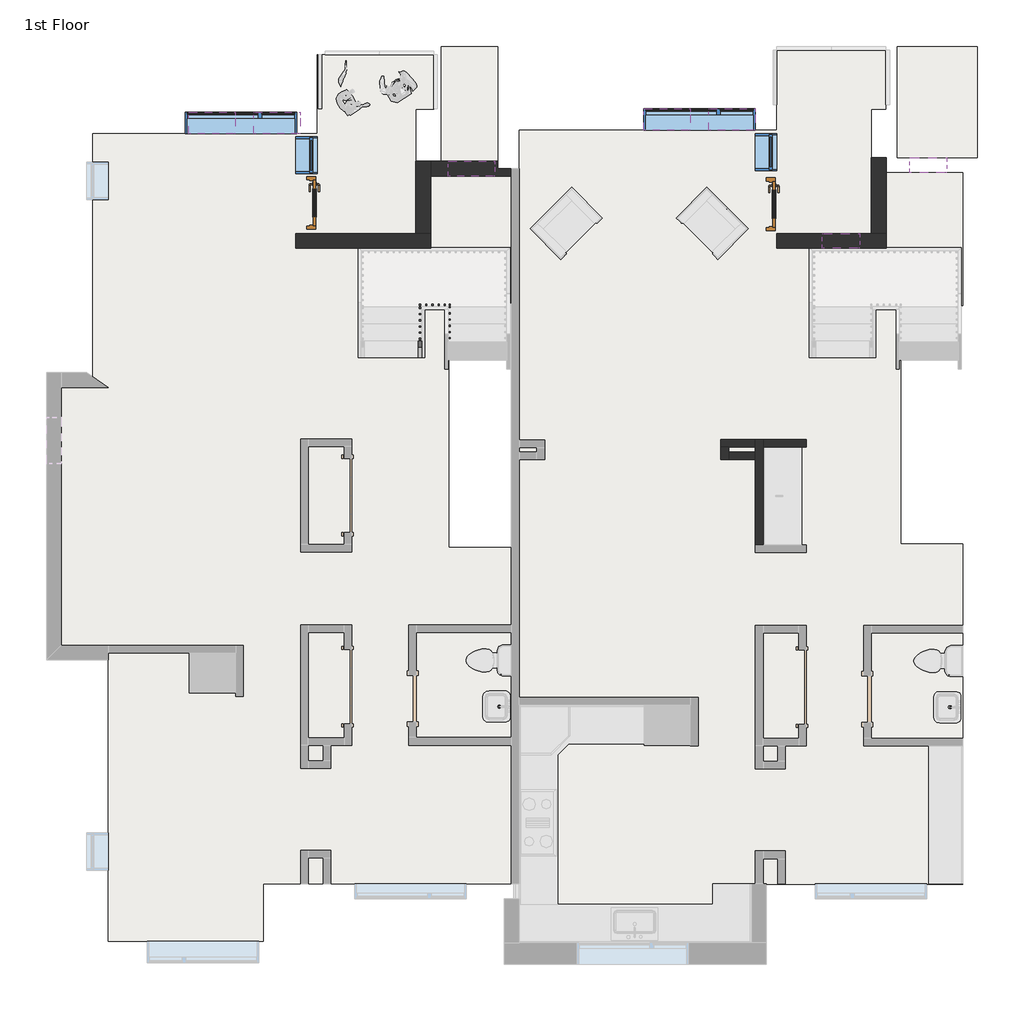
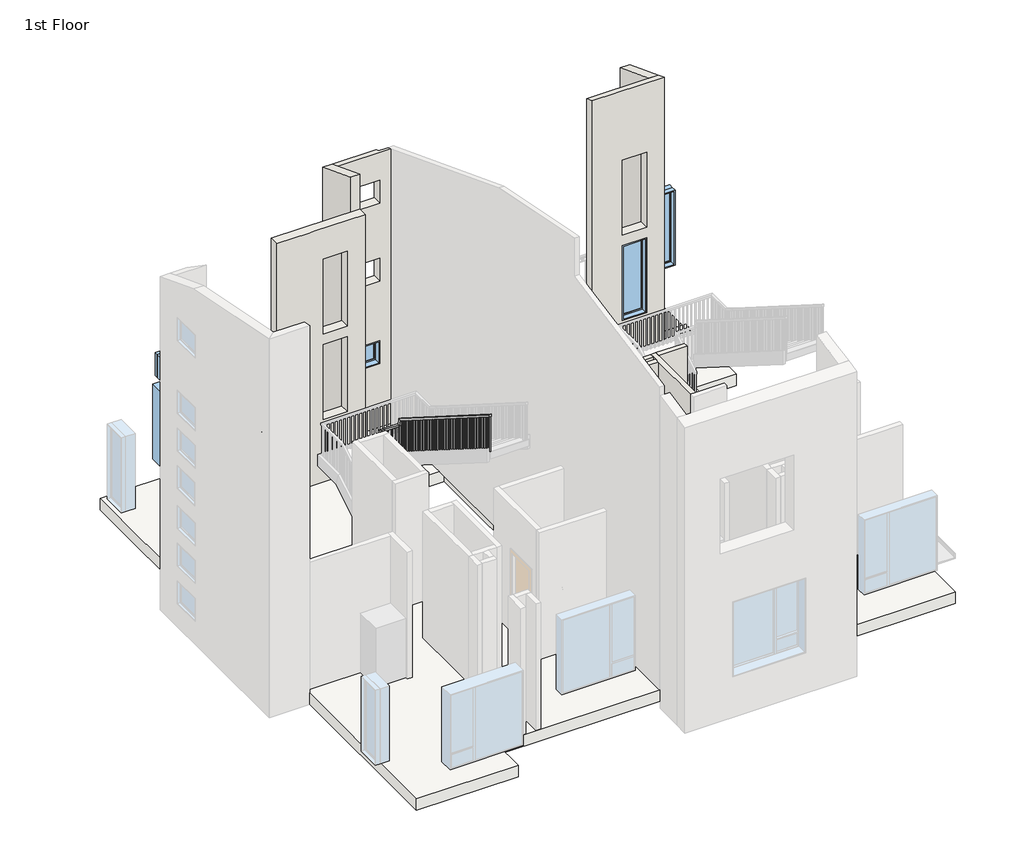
# One storey, part 2 of 6: 11 windows, 10 walls, 2 doors, 2 roofs, 1 railing, 1 slab.
"""IFC4 building model written with IfcOpenShell, lengths in millimetres."""

from ifc_helpers import new_model, si_unit, frame, origin, origin_with_axes, place, context, project, spatial, polyline, outline, extrude, faceted_brep, transform, mapped, element, save
from components import door_00adfaa7, window_8bf192ed, window_b6feeaa8, window_2f0d178e, window_b1c1038b, window_8c170f25, window_03925a3a, window_dcb26459

model = new_model("IFC4")

# Units and contexts
model_context = context("Model", 3, world=origin())
ifc_project = project(units=[si_unit("LENGTHUNIT", "METRE", prefix="MILLI")], contexts=[model_context])

# Site, building, storey
site = spatial("IfcSite", under=ifc_project)
building = spatial("IfcBuilding", under=site)
storey = spatial("IfcBuildingStorey", under=building, Name="1st Floor", Elevation=0.0)

# Doors
placement = place(None, origin())
door_shape = door_00adfaa7(model_context)
element("IfcDoor", 1, ObjectType="Door-Passage-Single-Full_Lite : 30\" x 84\"", at=placement, inside=storey, context=model_context, shape_type="MappedRepresentation", body=[
    mapped(door_shape, transform((2467.5053219, 5235.7563085, 0.0), x_axis=(0.0, -1.0, 0.0), y_axis=(1.0, 0.0, 0.0), z_axis=(0.0, 0.0, 1.0))),
])
element("IfcDoor", 2, ObjectType="Door-Passage-Single-Full_Lite : 30\" x 84\"", at=placement, inside=storey, context=model_context, shape_type="MappedRepresentation", body=[
    mapped(door_shape, transform((-5065.5821781, 5257.9813085, 0.0), x_axis=(0.0, -1.0, 0.0), y_axis=(1.0, 0.0, 0.0), z_axis=(0.0, 0.0, 1.0))),
])

# Railing
element("IfcRailing", 3, ObjectType="Handrail - Rectangular", at=placement, inside=storey, context=model_context, shape_type="SolidModel", body=[
    faceted_brep([(-3224.3663287, 2721.6563085, 1090.8631579), (-3224.3663287, 2721.6563085, 1030.7795781), (-3173.5663287, 2721.6563085, 1030.7795781), (-3173.5663287, 2721.6563085, 1090.8631579), (-3224.3663287, 3483.6563085, 1572.1263158), (-3224.3663287, 3534.4563085, 1544.1269465), (-3173.5663287, 3534.4563085, 1544.1269465), (-3173.5663287, 3483.6563085, 1572.1263158), (-3224.3663287, 3483.6563085, 1620.2526316), (-3224.3663287, 3534.4563085, 1569.4526316), (-3173.5663287, 3534.4563085, 1569.4526316), (-3173.5663287, 3483.6563085, 1620.2526316), (-3224.3663287, 3610.6563085, 1620.2526316), (-3224.3663287, 3610.6563085, 1569.4526316), (-3173.5663287, 3559.8563085, 1569.4526316), (-3173.5663287, 3559.8563085, 1620.2526316), (-3097.3663287, 3610.6563085, 1620.2526316), (-3097.3663287, 3610.6563085, 1569.4526316), (-3097.3663287, 3559.8563085, 1569.4526316), (-3097.3663287, 3559.8563085, 1620.2526316), (-2688.9571781, 3610.6563085, 1620.2526316), (-2688.9571781, 3559.8563085, 1620.2526316), (-2688.9571781, 3559.8563085, 1569.4526316), (-2688.9571781, 3610.6563085, 1569.4526316)], [[[0, 1, 2, 3]], [[1, 0, 4, 5]], [[2, 1, 5, 6]], [[3, 2, 6, 7]], [[0, 3, 7, 4]], [[5, 4, 8, 9]], [[6, 5, 9, 10]], [[7, 6, 10, 11]], [[4, 7, 11, 8]], [[9, 8, 12, 13]], [[10, 9, 13, 14]], [[11, 10, 14, 15]], [[8, 11, 15, 12]], [[13, 12, 16, 17]], [[14, 13, 17, 18]], [[15, 14, 18, 19]], [[12, 15, 19, 16]], [[20, 21, 22, 23]], [[17, 16, 20, 23]], [[18, 17, 23, 22]], [[19, 18, 22, 21]], [[16, 19, 21, 20]]]),
    faceted_brep([(-2688.9571781, 3585.2563085, 1620.2526316), (-2688.9571781, 3535.6297104, 1609.3971833), (-2739.7571781, 3535.6297104, 1609.3971833), (-2739.7571781, 3585.2563085, 1620.2526316), (-2688.9571781, 3546.6563085, 1796.7157895), (-2688.9571781, 3501.5690485, 1765.1083739), (-2739.7571781, 3501.5690485, 1765.1083739), (-2739.7571781, 3546.6563085, 1796.7157895), (-2688.9571781, -364.9436915, 4267.2), (-2739.7571781, -364.9436915, 4267.2), (-2739.7571781, -364.9436915, 4207.1164202), (-2688.9571781, -364.9436915, 4207.1164202)], [[[0, 1, 2, 3]], [[1, 0, 4, 5]], [[2, 1, 5, 6]], [[3, 2, 6, 7]], [[0, 3, 7, 4]], [[8, 9, 10, 11]], [[5, 4, 8, 11]], [[6, 5, 11, 10]], [[7, 6, 10, 9]], [[4, 7, 9, 8]]]),
    extrude(outline(polyline([(-323.6686915, 4181.0479991), (-304.6186915, 4169.0164202), (-304.6186915, 3176.3368421), (-323.6686915, 3176.3368421), (-323.6686915, 4181.0479991)])), frame((-2723.8821781, 0.0, 0.0), z_axis=(1.0, 0.0, 0.0), x_axis=(0.0, 1.0, 0.0)), (0.0, 0.0, 1.0), 19.05),
    extrude(outline(polyline([(-222.0686915, 4116.8795781), (-203.0186915, 4104.8479991), (-203.0186915, 3176.3368421), (-222.0686915, 3176.3368421), (-222.0686915, 4116.8795781)])), frame((-2723.8821781, 0.0, 0.0), z_axis=(1.0, 0.0, 0.0), x_axis=(0.0, 1.0, 0.0)), (0.0, 0.0, 1.0), 19.05),
    extrude(outline(polyline([(-120.4686915, 4052.711157), (-101.4186915, 4040.6795781), (-101.4186915, 3176.3368421), (-120.4686915, 3176.3368421), (-120.4686915, 4052.711157)])), frame((-2723.8821781, 0.0, 0.0), z_axis=(1.0, 0.0, 0.0), x_axis=(0.0, 1.0, 0.0)), (0.0, 0.0, 1.0), 19.05),
    extrude(outline(polyline([(-18.8686915, 3988.542736), (0.1813085, 3976.511157), (0.1813085, 2999.8736842), (-18.8686915, 2999.8736842), (-18.8686915, 3988.542736)])), frame((-2723.8821781, 0.0, 0.0), z_axis=(1.0, 0.0, 0.0), x_axis=(0.0, 1.0, 0.0)), (0.0, 0.0, 1.0), 19.05),
    extrude(outline(polyline([(82.7313085, 3924.3743149), (101.7813085, 3912.342736), (101.7813085, 2999.8736842), (82.7313085, 2999.8736842), (82.7313085, 3924.3743149)])), frame((-2723.8821781, 0.0, 0.0), z_axis=(1.0, 0.0, 0.0), x_axis=(0.0, 1.0, 0.0)), (0.0, 0.0, 1.0), 19.05),
    extrude(outline(polyline([(184.3313085, 3860.2058939), (203.3813085, 3848.1743149), (203.3813085, 2999.8736842), (184.3313085, 2999.8736842), (184.3313085, 3860.2058939)])), frame((-2723.8821781, 0.0, 0.0), z_axis=(1.0, 0.0, 0.0), x_axis=(0.0, 1.0, 0.0)), (0.0, 0.0, 1.0), 19.05),
    extrude(outline(polyline([(285.9313085, 3796.0374728), (304.9813085, 3784.0058939), (304.9813085, 2823.4105263), (285.9313085, 2823.4105263), (285.9313085, 3796.0374728)])), frame((-2723.8821781, 0.0, 0.0), z_axis=(1.0, 0.0, 0.0), x_axis=(0.0, 1.0, 0.0)), (0.0, 0.0, 1.0), 19.05),
    extrude(outline(polyline([(387.5313085, 3731.8690517), (406.5813085, 3719.8374728), (406.5813085, 2823.4105263), (387.5313085, 2823.4105263), (387.5313085, 3731.8690517)])), frame((-2723.8821781, 0.0, 0.0), z_axis=(1.0, 0.0, 0.0), x_axis=(0.0, 1.0, 0.0)), (0.0, 0.0, 1.0), 19.05),
    extrude(outline(polyline([(489.1313085, 3667.7006307), (508.1813085, 3655.6690517), (508.1813085, 2646.9473684), (489.1313085, 2646.9473684), (489.1313085, 3667.7006307)])), frame((-2723.8821781, 0.0, 0.0), z_axis=(1.0, 0.0, 0.0), x_axis=(0.0, 1.0, 0.0)), (0.0, 0.0, 1.0), 19.05),
    extrude(outline(polyline([(590.7313085, 3603.5322096), (609.7813085, 3591.5006307), (609.7813085, 2646.9473684), (590.7313085, 2646.9473684), (590.7313085, 3603.5322096)])), frame((-2723.8821781, 0.0, 0.0), z_axis=(1.0, 0.0, 0.0), x_axis=(0.0, 1.0, 0.0)), (0.0, 0.0, 1.0), 19.05),
    extrude(outline(polyline([(692.3313085, 3539.3637886), (711.3813085, 3527.3322096), (711.3813085, 2646.9473684), (692.3313085, 2646.9473684), (692.3313085, 3539.3637886)])), frame((-2723.8821781, 0.0, 0.0), z_axis=(1.0, 0.0, 0.0), x_axis=(0.0, 1.0, 0.0)), (0.0, 0.0, 1.0), 19.05),
    extrude(outline(polyline([(793.9313085, 3475.1953675), (812.9813085, 3463.1637886), (812.9813085, 2470.4842105), (793.9313085, 2470.4842105), (793.9313085, 3475.1953675)])), frame((-2723.8821781, 0.0, 0.0), z_axis=(1.0, 0.0, 0.0), x_axis=(0.0, 1.0, 0.0)), (0.0, 0.0, 1.0), 19.05),
    extrude(outline(polyline([(895.5313085, 3411.0269465), (914.5813085, 3398.9953675), (914.5813085, 2470.4842105), (895.5313085, 2470.4842105), (895.5313085, 3411.0269465)])), frame((-2723.8821781, 0.0, 0.0), z_axis=(1.0, 0.0, 0.0), x_axis=(0.0, 1.0, 0.0)), (0.0, 0.0, 1.0), 19.05),
    extrude(outline(polyline([(997.1313085, 3346.8585254), (1016.1813085, 3334.8269465), (1016.1813085, 2470.4842105), (997.1313085, 2470.4842105), (997.1313085, 3346.8585254)])), frame((-2723.8821781, 0.0, 0.0), z_axis=(1.0, 0.0, 0.0), x_axis=(0.0, 1.0, 0.0)), (0.0, 0.0, 1.0), 19.05),
    extrude(outline(polyline([(1098.7313085, 3282.6901044), (1117.7813085, 3270.6585254), (1117.7813085, 2294.0210526), (1098.7313085, 2294.0210526), (1098.7313085, 3282.6901044)])), frame((-2723.8821781, 0.0, 0.0), z_axis=(1.0, 0.0, 0.0), x_axis=(0.0, 1.0, 0.0)), (0.0, 0.0, 1.0), 19.05),
    extrude(outline(polyline([(1200.3313085, 3218.5216833), (1219.3813085, 3206.4901044), (1219.3813085, 2294.0210526), (1200.3313085, 2294.0210526), (1200.3313085, 3218.5216833)])), frame((-2723.8821781, 0.0, 0.0), z_axis=(1.0, 0.0, 0.0), x_axis=(0.0, 1.0, 0.0)), (0.0, 0.0, 1.0), 19.05),
    extrude(outline(polyline([(1301.9313085, 3154.3532623), (1320.9813085, 3142.3216833), (1320.9813085, 2294.0210526), (1301.9313085, 2294.0210526), (1301.9313085, 3154.3532623)])), frame((-2723.8821781, 0.0, 0.0), z_axis=(1.0, 0.0, 0.0), x_axis=(0.0, 1.0, 0.0)), (0.0, 0.0, 1.0), 19.05),
    extrude(outline(polyline([(1403.5313085, 3090.1848412), (1422.5813085, 3078.1532623), (1422.5813085, 2117.5578947), (1403.5313085, 2117.5578947), (1403.5313085, 3090.1848412)])), frame((-2723.8821781, 0.0, 0.0), z_axis=(1.0, 0.0, 0.0), x_axis=(0.0, 1.0, 0.0)), (0.0, 0.0, 1.0), 19.05),
    extrude(outline(polyline([(1505.1313085, 3026.0164202), (1524.1813085, 3013.9848412), (1524.1813085, 2117.5578947), (1505.1313085, 2117.5578947), (1505.1313085, 3026.0164202)])), frame((-2723.8821781, 0.0, 0.0), z_axis=(1.0, 0.0, 0.0), x_axis=(0.0, 1.0, 0.0)), (0.0, 0.0, 1.0), 19.05),
    extrude(outline(polyline([(1606.7313085, 2961.8479991), (1625.7813085, 2949.8164202), (1625.7813085, 1941.0947368), (1606.7313085, 1941.0947368), (1606.7313085, 2961.8479991)])), frame((-2723.8821781, 0.0, 0.0), z_axis=(1.0, 0.0, 0.0), x_axis=(0.0, 1.0, 0.0)), (0.0, 0.0, 1.0), 19.05),
    extrude(outline(polyline([(1708.3313085, 2897.6795781), (1727.3813085, 2885.6479991), (1727.3813085, 1941.0947368), (1708.3313085, 1941.0947368), (1708.3313085, 2897.6795781)])), frame((-2723.8821781, 0.0, 0.0), z_axis=(1.0, 0.0, 0.0), x_axis=(0.0, 1.0, 0.0)), (0.0, 0.0, 1.0), 19.05),
    extrude(outline(polyline([(1809.9313085, 2833.511157), (1828.9813085, 2821.4795781), (1828.9813085, 1941.0947368), (1809.9313085, 1941.0947368), (1809.9313085, 2833.511157)])), frame((-2723.8821781, 0.0, 0.0), z_axis=(1.0, 0.0, 0.0), x_axis=(0.0, 1.0, 0.0)), (0.0, 0.0, 1.0), 19.05),
    extrude(outline(polyline([(1911.5313085, 2769.342736), (1930.5813085, 2757.311157), (1930.5813085, 1764.6315789), (1911.5313085, 1764.6315789), (1911.5313085, 2769.342736)])), frame((-2723.8821781, 0.0, 0.0), z_axis=(1.0, 0.0, 0.0), x_axis=(0.0, 1.0, 0.0)), (0.0, 0.0, 1.0), 19.05),
    extrude(outline(polyline([(2013.1313085, 2705.1743149), (2032.1813085, 2693.142736), (2032.1813085, 1764.6315789), (2013.1313085, 1764.6315789), (2013.1313085, 2705.1743149)])), frame((-2723.8821781, 0.0, 0.0), z_axis=(1.0, 0.0, 0.0), x_axis=(0.0, 1.0, 0.0)), (0.0, 0.0, 1.0), 19.05),
    extrude(outline(polyline([(2114.7313085, 2641.0058939), (2133.7813085, 2628.9743149), (2133.7813085, 1764.6315789), (2114.7313085, 1764.6315789), (2114.7313085, 2641.0058939)])), frame((-2723.8821781, 0.0, 0.0), z_axis=(1.0, 0.0, 0.0), x_axis=(0.0, 1.0, 0.0)), (0.0, 0.0, 1.0), 19.05),
    extrude(outline(polyline([(2216.3313085, 2576.8374728), (2235.3813085, 2564.8058939), (2235.3813085, 1588.1684211), (2216.3313085, 1588.1684211), (2216.3313085, 2576.8374728)])), frame((-2723.8821781, 0.0, 0.0), z_axis=(1.0, 0.0, 0.0), x_axis=(0.0, 1.0, 0.0)), (0.0, 0.0, 1.0), 19.05),
    extrude(outline(polyline([(2317.9313085, 2512.6690517), (2336.9813085, 2500.6374728), (2336.9813085, 1588.1684211), (2317.9313085, 1588.1684211), (2317.9313085, 2512.6690517)])), frame((-2723.8821781, 0.0, 0.0), z_axis=(1.0, 0.0, 0.0), x_axis=(0.0, 1.0, 0.0)), (0.0, 0.0, 1.0), 19.05),
    extrude(outline(polyline([(2419.5313085, 2448.5006307), (2438.5813085, 2436.4690517), (2438.5813085, 1588.1684211), (2419.5313085, 1588.1684211), (2419.5313085, 2448.5006307)])), frame((-2723.8821781, 0.0, 0.0), z_axis=(1.0, 0.0, 0.0), x_axis=(0.0, 1.0, 0.0)), (0.0, 0.0, 1.0), 19.05),
    extrude(outline(polyline([(2521.1313085, 2384.3322096), (2540.1813085, 2372.3006307), (2540.1813085, 1411.7052632), (2521.1313085, 1411.7052632), (2521.1313085, 2384.3322096)])), frame((-2723.8821781, 0.0, 0.0), z_axis=(1.0, 0.0, 0.0), x_axis=(0.0, 1.0, 0.0)), (0.0, 0.0, 1.0), 19.05),
    extrude(outline(polyline([(2622.7313085, 2320.1637886), (2641.7813085, 2308.1322096), (2641.7813085, 1411.7052632), (2622.7313085, 1411.7052632), (2622.7313085, 2320.1637886)])), frame((-2723.8821781, 0.0, 0.0), z_axis=(1.0, 0.0, 0.0), x_axis=(0.0, 1.0, 0.0)), (0.0, 0.0, 1.0), 19.05),
    extrude(outline(polyline([(2724.3313085, 2255.9953675), (2743.3813085, 2243.9637886), (2743.3813085, 1235.2421053), (2724.3313085, 1235.2421053), (2724.3313085, 2255.9953675)])), frame((-2723.8821781, 0.0, 0.0), z_axis=(1.0, 0.0, 0.0), x_axis=(0.0, 1.0, 0.0)), (0.0, 0.0, 1.0), 19.05),
    extrude(outline(polyline([(2825.9313085, 2191.8269465), (2844.9813085, 2179.7953675), (2844.9813085, 1235.2421053), (2825.9313085, 1235.2421053), (2825.9313085, 2191.8269465)])), frame((-2723.8821781, 0.0, 0.0), z_axis=(1.0, 0.0, 0.0), x_axis=(0.0, 1.0, 0.0)), (0.0, 0.0, 1.0), 19.05),
    extrude(outline(polyline([(2927.5313085, 2127.6585254), (2946.5813085, 2115.6269465), (2946.5813085, 1235.2421053), (2927.5313085, 1235.2421053), (2927.5313085, 2127.6585254)])), frame((-2723.8821781, 0.0, 0.0), z_axis=(1.0, 0.0, 0.0), x_axis=(0.0, 1.0, 0.0)), (0.0, 0.0, 1.0), 19.05),
    extrude(outline(polyline([(3029.1313085, 2063.4901044), (3048.1813085, 2051.4585254), (3048.1813085, 1058.7789474), (3029.1313085, 1058.7789474), (3029.1313085, 2063.4901044)])), frame((-2723.8821781, 0.0, 0.0), z_axis=(1.0, 0.0, 0.0), x_axis=(0.0, 1.0, 0.0)), (0.0, 0.0, 1.0), 19.05),
    extrude(outline(polyline([(3130.7313085, 1999.3216833), (3149.7813085, 1987.2901044), (3149.7813085, 1058.7789474), (3130.7313085, 1058.7789474), (3130.7313085, 1999.3216833)])), frame((-2723.8821781, 0.0, 0.0), z_axis=(1.0, 0.0, 0.0), x_axis=(0.0, 1.0, 0.0)), (0.0, 0.0, 1.0), 19.05),
    extrude(outline(polyline([(3232.3313085, 1935.1532623), (3251.3813085, 1923.1216833), (3251.3813085, 1058.7789474), (3232.3313085, 1058.7789474), (3232.3313085, 1935.1532623)])), frame((-2723.8821781, 0.0, 0.0), z_axis=(1.0, 0.0, 0.0), x_axis=(0.0, 1.0, 0.0)), (0.0, 0.0, 1.0), 19.05),
    extrude(outline(polyline([(3333.9313085, 1870.9848412), (3352.9813085, 1858.9532623), (3352.9813085, 882.3157895), (3333.9313085, 882.3157895), (3333.9313085, 1870.9848412)])), frame((-2723.8821781, 0.0, 0.0), z_axis=(1.0, 0.0, 0.0), x_axis=(0.0, 1.0, 0.0)), (0.0, 0.0, 1.0), 19.05),
    extrude(outline(polyline([(3435.5313085, 1806.8164202), (3454.5813085, 1794.7848412), (3454.5813085, 882.3157895), (3435.5313085, 882.3157895), (3435.5313085, 1806.8164202)])), frame((-2723.8821781, 0.0, 0.0), z_axis=(1.0, 0.0, 0.0), x_axis=(0.0, 1.0, 0.0)), (0.0, 0.0, 1.0), 19.05),
    extrude(outline(polyline([(-2802.0913287, 3575.7313085), (-2802.0913287, 3594.7813085), (-2783.0413287, 3594.7813085), (-2783.0413287, 3575.7313085), (-2802.0913287, 3575.7313085)])), frame((0.0, 0.0, 705.8526316), z_axis=(0.0, 0.0, 1.0), x_axis=(1.0, 0.0, 0.0)), (0.0, 0.0, 1.0), 863.6),
    extrude(outline(polyline([(-2903.6913287, 3575.7313085), (-2903.6913287, 3594.7813085), (-2884.6413287, 3594.7813085), (-2884.6413287, 3575.7313085), (-2903.6913287, 3575.7313085)])), frame((0.0, 0.0, 705.8526316), z_axis=(0.0, 0.0, 1.0), x_axis=(1.0, 0.0, 0.0)), (0.0, 0.0, 1.0), 863.6),
    extrude(outline(polyline([(-3005.2913287, 3575.7313085), (-3005.2913287, 3594.7813085), (-2986.2413287, 3594.7813085), (-2986.2413287, 3575.7313085), (-3005.2913287, 3575.7313085)])), frame((0.0, 0.0, 705.8526316), z_axis=(0.0, 0.0, 1.0), x_axis=(1.0, 0.0, 0.0)), (0.0, 0.0, 1.0), 863.6),
    extrude(outline(polyline([(-3106.8913287, 3575.7313085), (-3106.8913287, 3594.7813085), (-3087.8413287, 3594.7813085), (-3087.8413287, 3575.7313085), (-3106.8913287, 3575.7313085)])), frame((0.0, 0.0, 705.8526316), z_axis=(0.0, 0.0, 1.0), x_axis=(1.0, 0.0, 0.0)), (0.0, 0.0, 1.0), 863.6),
    extrude(outline(polyline([(-3189.4413287, 3524.9313085), (-3208.4913287, 3524.9313085), (-3208.4913287, 3543.9813085), (-3189.4413287, 3543.9813085), (-3189.4413287, 3524.9313085)])), frame((0.0, 0.0, 529.3894737), z_axis=(0.0, 0.0, 1.0), x_axis=(1.0, 0.0, 0.0)), (0.0, 0.0, 1.0), 1040.0631579),
    extrude(outline(polyline([(3423.3313085, 1473.942736), (3442.3813085, 1485.9743149), (3442.3813085, 529.3894737), (3423.3313085, 529.3894737), (3423.3313085, 1473.942736)])), frame((-3208.4913287, 0.0, 0.0), z_axis=(1.0, 0.0, 0.0), x_axis=(0.0, 1.0, 0.0)), (0.0, 0.0, 1.0), 19.05),
    extrude(outline(polyline([(3321.7313085, 1409.7743149), (3340.7813085, 1421.8058939), (3340.7813085, 529.3894737), (3321.7313085, 529.3894737), (3321.7313085, 1409.7743149)])), frame((-3208.4913287, 0.0, 0.0), z_axis=(1.0, 0.0, 0.0), x_axis=(0.0, 1.0, 0.0)), (0.0, 0.0, 1.0), 19.05),
    extrude(outline(polyline([(3220.1313085, 1345.6058939), (3239.1813085, 1357.6374728), (3239.1813085, 352.9263158), (3220.1313085, 352.9263158), (3220.1313085, 1345.6058939)])), frame((-3208.4913287, 0.0, 0.0), z_axis=(1.0, 0.0, 0.0), x_axis=(0.0, 1.0, 0.0)), (0.0, 0.0, 1.0), 19.05),
    extrude(outline(polyline([(3118.5313085, 1281.4374728), (3137.5813085, 1293.4690517), (3137.5813085, 352.9263158), (3118.5313085, 352.9263158), (3118.5313085, 1281.4374728)])), frame((-3208.4913287, 0.0, 0.0), z_axis=(1.0, 0.0, 0.0), x_axis=(0.0, 1.0, 0.0)), (0.0, 0.0, 1.0), 19.05),
    extrude(outline(polyline([(3016.9313085, 1217.2690517), (3035.9813085, 1229.3006307), (3035.9813085, 352.9263158), (3016.9313085, 352.9263158), (3016.9313085, 1217.2690517)])), frame((-3208.4913287, 0.0, 0.0), z_axis=(1.0, 0.0, 0.0), x_axis=(0.0, 1.0, 0.0)), (0.0, 0.0, 1.0), 19.05),
    extrude(outline(polyline([(2915.3313085, 1153.1006307), (2934.3813085, 1165.1322096), (2934.3813085, 176.4631579), (2915.3313085, 176.4631579), (2915.3313085, 1153.1006307)])), frame((-3208.4913287, 0.0, 0.0), z_axis=(1.0, 0.0, 0.0), x_axis=(0.0, 1.0, 0.0)), (0.0, 0.0, 1.0), 19.05),
    extrude(outline(polyline([(2813.7313085, 1088.9322096), (2832.7813085, 1100.9637886), (2832.7813085, 176.4631579), (2813.7313085, 176.4631579), (2813.7313085, 1088.9322096)])), frame((-3208.4913287, 0.0, 0.0), z_axis=(1.0, 0.0, 0.0), x_axis=(0.0, 1.0, 0.0)), (0.0, 0.0, 1.0), 19.05),
    extrude(outline(polyline([(3537.1313085, 1602.5325007), (3556.1813085, 1515.4438178), (3556.1813085, 705.8526316), (3537.1313085, 705.8526316), (3537.1313085, 1602.5325007)])), frame((-2723.8821781, 0.0, 0.0), z_axis=(1.0, 0.0, 0.0), x_axis=(0.0, 1.0, 0.0)), (0.0, 0.0, 1.0), 19.05),
    extrude(outline(polyline([(-2723.8821781, 3575.7313085), (-2723.8821781, 3594.7813085), (-2704.8321781, 3594.7813085), (-2704.8321781, 3575.7313085), (-2723.8821781, 3575.7313085)])), frame((0.0, 0.0, 705.8526316), z_axis=(0.0, 0.0, 1.0), x_axis=(1.0, 0.0, 0.0)), (0.0, 0.0, 1.0), 863.6),
    extrude(outline(polyline([(-3189.4413287, 3575.7313085), (-3208.4913287, 3575.7313085), (-3208.4913287, 3594.7813085), (-3189.4413287, 3594.7813085), (-3189.4413287, 3575.7313085)])), frame((0.0, 0.0, 705.8526316), z_axis=(0.0, 0.0, 1.0), x_axis=(1.0, 0.0, 0.0)), (0.0, 0.0, 1.0), 863.6),
    extrude(outline(polyline([(-364.9436915, 4207.1164202), (-345.8936915, 4195.0848412), (-345.8936915, 3176.3368421), (-364.9436915, 3176.3368421), (-364.9436915, 4207.1164202)])), frame((-2723.8821781, 0.0, 0.0), z_axis=(1.0, 0.0, 0.0), x_axis=(0.0, 1.0, 0.0)), (0.0, 0.0, 1.0), 19.05),
    extrude(outline(polyline([(2721.6563085, 1030.7795781), (2740.7063085, 1042.811157), (2740.7063085, 176.4631579), (2721.6563085, 176.4631579), (2721.6563085, 1030.7795781)])), frame((-3208.4913287, 0.0, 0.0), z_axis=(1.0, 0.0, 0.0), x_axis=(0.0, 1.0, 0.0)), (0.0, 0.0, 1.0), 19.05),
])

# Roofs
element("IfcRoof", 4, ObjectType="Generic - 12\"", at=placement, inside=storey, context=model_context, shape_type="SweptSolid", body=[
    extrude(outline(polyline([(5939.5155789, 7822.3188085), (5939.5155789, 5995.5187973), (4622.3681157, 5995.5187973), (4622.3681157, 7822.3188085), (5939.5155789, 7822.3188085)])), frame((0.0, 0.0, -762.0), z_axis=(0.0, 0.0, 1.0), x_axis=(1.0, 0.0, 0.0)), (0.0, 0.0, 1.0), 304.8),
])
element("IfcRoof", 5, ObjectType="Generic - 12\"", at=placement, inside=storey, context=model_context, shape_type="SweptSolid", body=[
    extrude(outline(polyline([(-1928.5446781, 7822.3188085), (-1928.5446781, 5938.3687973), (-2852.9735601, 5938.3687973), (-2852.9735601, 7822.3188085), (-1928.5446781, 7822.3188085)])), frame((0.0, 0.0, -762.0), z_axis=(0.0, 0.0, 1.0), x_axis=(1.0, 0.0, 0.0)), (0.0, 0.0, 1.0), 304.8),
])

# Slab
element("IfcSlab", 6, ObjectType="Generic - 12\"", at=placement, inside=storey, context=model_context, shape_type="Brep", body=[
    faceted_brep([(-4883.0196781, 6389.4938085, -304.8), (-4883.0196781, 7689.6125585, -304.8), (-2974.5886971, 7689.6125585, -304.8), (-2974.5886971, 6797.6813085, -304.8), (-3266.2735601, 6797.6813085, -304.8), (-3266.2735601, 5697.0687973, -304.8), (-1576.1196781, 5697.0687973, -304.8), (-1576.1196781, 6447.0188085, -304.8), (2650.0678219, 6447.0188085, -304.8), (2650.0678219, 7819.5812973, -304.8), (4438.9264399, 7819.5812973, -304.8), (4438.9264399, 6797.6813085, -304.8), (4200.8014399, 6797.6813085, -304.8), (4200.8014399, 5754.2187973, -304.8), (5698.2155789, 5754.2187973, -304.8), (5698.2155789, 3572.0563085, -304.8), (4682.2155789, 3572.0563085, -304.8), (4682.2155789, -337.0811915, -304.8), (5698.2155789, -337.0811915, -304.8), (5698.2155789, -5917.0296456, -304.8), (2236.5178219, -5917.0296456, -304.8), (2236.5178219, -6878.3686915, -304.8), (-1576.1196783, -6878.3686915, -304.8), (-1576.1196779, -5913.8546456, -304.8), (-5765.8946781, -5913.8546456, -304.8), (-5765.8946781, -6854.1186915, -304.8), (-8312.2446781, -6854.1186915, -304.8), (-8312.2446781, -1997.5436915, -304.8), (-8664.6696781, -1997.5436915, -304.8), (-9080.4946781, -1997.5436915, -304.8), (-9080.4946781, 2230.7574206, -304.8), (-8664.6696781, 2230.7574206, -304.8), (-8566.5821781, 2230.7574206, -304.8), (-8566.5821781, 6389.4938085, -304.8), (-8312.2446781, 6389.4938085, -304.8), (-2715.9446781, -384.9686915, -304.8), (-1576.1196781, -384.9686915, -304.8), (-1576.1196781, 3603.8062973, -304.8), (-2715.9446781, 3603.8062973, -304.8), (-4883.0196781, 6389.4938085, 0.0), (-8312.2446781, 6389.4938085, 0.0), (-8566.5821781, 6389.4938085, 0.0), (-8566.5821781, 2404.8984116, 0.0), (-8566.5821781, 2230.7574206, 0.0), (-9080.4946781, 2230.7574206, 0.0), (-9080.4946781, -1997.5436915, 0.0), (-8312.2446781, -1997.5436915, 0.0), (-8312.2446781, -6854.1186915, 0.0), (-5765.8946781, -6854.1186915, 0.0), (-5765.8946781, -5913.8546456, 0.0), (-1576.1196779, -5913.8546456, 0.0), (-1576.1196783, -6878.3686915, 0.0), (2236.5178219, -6878.3686915, 0.0), (2236.5178219, -5917.0296456, 0.0), (5698.2155789, -5917.0296456, 0.0), (5698.2155789, -337.0811915, 0.0), (4682.2155789, -337.0811915, 0.0), (4682.2155789, 3572.0563085, 0.0), (5698.2155789, 3572.0563085, 0.0), (5698.2155789, 5754.2187973, 0.0), (4200.8014399, 5754.2187973, 0.0), (4200.8014399, 6797.6813085, 0.0), (4438.9264399, 6797.6813085, 0.0), (4438.9264399, 7819.5812973, 0.0), (2650.0678219, 7819.5812973, 0.0), (2650.0678219, 6447.0188085, 0.0), (-1576.1196781, 6447.0188085, 0.0), (-1576.1196781, 5697.0687973, 0.0), (-3266.2735601, 5697.0687973, 0.0), (-3266.2735601, 6797.6813085, 0.0), (-2974.5886971, 6797.6813085, 0.0), (-2974.5886971, 7689.6125585, 0.0), (-4883.0196781, 7689.6125585, 0.0), (-2715.9446781, -384.9686915, 0.0), (-2715.9446781, 3603.8062973, 0.0), (-1576.1196781, 3603.8062973, 0.0), (-1576.1196781, -384.9686915, 0.0), (-8312.2446781, -1997.5436915, -28.575), (-8566.5821781, 2230.7574206, -28.575)], [[[0, 1, 2, 3, 4, 5, 6, 7, 8, 9, 10, 11, 12, 13, 14, 15, 16, 17, 18, 19, 20, 21, 22, 23, 24, 25, 26, 27, 28, 29, 30, 31, 32, 33, 34], [35, 36, 37, 38]], [[39, 40, 41, 42, 43, 44, 45, 46, 47, 48, 49, 50, 51, 52, 53, 54, 55, 56, 57, 58, 59, 60, 61, 62, 63, 64, 65, 66, 67, 68, 69, 70, 71, 72], [73, 74, 75, 76]], [[1, 0, 39, 72]], [[2, 1, 72, 71]], [[3, 2, 71, 70]], [[4, 3, 70, 69]], [[5, 4, 69, 68]], [[6, 5, 68, 67]], [[7, 6, 67, 66]], [[8, 7, 66, 65]], [[9, 8, 65, 64]], [[10, 9, 64, 63]], [[11, 10, 63, 62]], [[12, 11, 62, 61]], [[13, 12, 61, 60]], [[14, 13, 60, 59]], [[15, 14, 59, 58]], [[16, 15, 58, 57]], [[17, 16, 57, 56]], [[18, 17, 56, 55]], [[19, 18, 55, 54]], [[20, 19, 54, 53]], [[21, 20, 53, 52]], [[22, 21, 52, 51]], [[23, 22, 51, 50]], [[24, 23, 50, 49]], [[25, 24, 49, 48]], [[26, 25, 48, 47]], [[27, 26, 47, 46, 77]], [[29, 28, 27, 77, 46, 45]], [[30, 29, 45, 44]], [[32, 31, 30, 44, 43, 78]], [[33, 32, 78, 43, 42, 41]], [[0, 34, 33, 41, 40, 39]], [[36, 35, 73, 76]], [[37, 36, 76, 75]], [[38, 37, 75, 74]], [[35, 38, 74, 73]]]),
])

# Walls
element("IfcWall", 7, ObjectType="Exterior - Stucco", at=placement, inside=storey, context=model_context, shape_type="Brep", body=[
    faceted_brep([(-5235.4446781, 4511.8563085, 6705.6), (-4418.7969211, 4511.8563085, 6705.6), (-4294.9719211, 4511.8563085, 6705.6), (-3024.9735601, 4511.8563085, 6705.6), (-3024.9735601, 4753.1563085, 6705.6), (-5235.4446781, 4753.1563085, 6705.6), (-3024.9735601, 4753.1563085, 0.0), (-3266.2735601, 4753.1563085, 0.0), (-5235.4446781, 4753.1563085, 0.0), (-3471.0610601, 4753.1563085, 1651.0), (-3471.0610601, 4753.1563085, 3632.2), (-4080.6610601, 4753.1563085, 3632.2), (-4080.6610601, 4753.1563085, 1651.0), (-3471.0610601, 4753.1563085, 5892.8), (-4080.6610601, 4753.1563085, 5892.8), (-4080.6610601, 4753.1563085, 3911.6), (-3471.0610601, 4753.1563085, 3911.6), (-5235.4446781, 4511.8563085, 0.0), (-3024.9735601, 4511.8563085, 0.0), (-3471.0610601, 4511.8563085, 3632.2), (-3471.0610601, 4511.8563085, 1651.0), (-4080.6610601, 4511.8563085, 1651.0), (-4080.6610601, 4511.8563085, 3632.2), (-3471.0610601, 4511.8563085, 5892.8), (-3471.0610601, 4511.8563085, 3911.6), (-4080.6610601, 4511.8563085, 3911.6), (-4080.6610601, 4511.8563085, 5892.8)], [[[0, 1, 2, 3, 4, 5]], [[6, 7, 8, 5, 4], [9, 10, 11, 12], [13, 14, 15, 16]], [[17, 18, 3, 2, 1, 0], [19, 20, 21, 22], [23, 24, 25, 26]], [[18, 17, 8, 7, 6]], [[3, 18, 6, 4]], [[17, 0, 5, 8]], [[19, 10, 9, 20]], [[20, 9, 12, 21]], [[21, 12, 11, 22]], [[10, 19, 22, 11]], [[24, 23, 13, 16]], [[25, 24, 16, 15]], [[26, 25, 15, 14]], [[23, 26, 14, 13]]]),
])
element("IfcWall", 8, ObjectType="Exterior - Stucco", at=placement, inside=storey, context=model_context, shape_type="Brep", body=[
    faceted_brep([(-3024.9735601, 4753.1563085, 0.0), (-3024.9735601, 5697.0687973, 0.0), (-3024.9735601, 5938.3687973, 0.0), (-3024.9735601, 5938.3687973, 7177.3038799), (-3024.9735601, 5697.0687973, 7270.1976451), (-3024.9735601, 4753.1563085, 7633.5776082), (-3024.9735601, 4753.1563085, 6705.6), (-3266.2735601, 4753.1563085, 0.0), (-3266.2735601, 4753.1563085, 7633.5776082), (-3266.2735601, 5938.3687973, 7177.3038799), (-3266.2735601, 5938.3687973, 0.0)], [[[0, 1, 2, 3, 4, 5, 6]], [[7, 8, 9, 10]], [[2, 1, 0, 7, 10]], [[3, 2, 10, 9]], [[0, 6, 5, 8, 7]], [[5, 4, 3, 9, 8]]]),
])
element("IfcWall", 9, ObjectType="Exterior - Stucco", at=placement, inside=storey, context=model_context, shape_type="Brep", body=[
    faceted_brep([(-1928.5446781, 5938.3687973, 0.0), (-3024.9735601, 5938.3687973, 0.0), (-3024.9735601, 5938.3687973, 7177.3038799), (-1928.5446781, 5938.3687973, 7177.3038799), (-1974.5821781, 5938.3687973, 5918.2), (-1974.5821781, 5938.3687973, 6527.8), (-2736.5821781, 5938.3687973, 6527.8), (-2736.5821781, 5938.3687973, 5918.2), (-1974.5821781, 5938.3687973, 4470.4), (-2736.5821781, 5938.3687973, 4470.4), (-2736.5821781, 5938.3687973, 3860.8), (-1974.5821781, 5938.3687973, 3860.8), (-1974.5821781, 5938.3687973, 2286.0), (-2736.5821781, 5938.3687973, 2286.0), (-2736.5821781, 5938.3687973, 1676.4), (-1974.5821781, 5938.3687973, 1676.4), (-3024.9735601, 5697.0687973, 0.0), (-1699.9446781, 5697.0687973, 0.0), (-1699.9446781, 5697.0687973, 7270.1976451), (-3024.9735601, 5697.0687973, 7270.1976451), (-1974.5821781, 5697.0687973, 6527.8), (-1974.5821781, 5697.0687973, 5918.2), (-2736.5821781, 5697.0687973, 5918.2), (-2736.5821781, 5697.0687973, 6527.8), (-1974.5821781, 5697.0687973, 4470.4), (-1974.5821781, 5697.0687973, 3860.8), (-2736.5821781, 5697.0687973, 3860.8), (-2736.5821781, 5697.0687973, 4470.4), (-1974.5821781, 5697.0687973, 2286.0), (-1974.5821781, 5697.0687973, 1676.4), (-2736.5821781, 5697.0687973, 1676.4), (-2736.5821781, 5697.0687973, 2286.0), (-1928.5446781, 5817.7187973, 0.0), (-1699.9446781, 5817.7187973, 0.0), (-1699.9446781, 5817.7187973, 7223.7507625), (-1928.5446781, 5817.7187973, 7223.7507625)], [[[0, 1, 2, 3], [4, 5, 6, 7], [8, 9, 10, 11], [12, 13, 14, 15]], [[16, 17, 18, 19], [20, 21, 22, 23], [24, 25, 26, 27], [28, 29, 30, 31]], [[17, 16, 1, 0, 32, 33]], [[16, 19, 2, 1]], [[19, 18, 34, 35, 3, 2]], [[18, 17, 33, 34]], [[33, 32, 35, 34]], [[0, 3, 35, 32]], [[20, 5, 4, 21]], [[21, 4, 7, 22]], [[22, 7, 6, 23]], [[5, 20, 23, 6]], [[25, 24, 8, 11]], [[26, 25, 11, 10]], [[27, 26, 10, 9]], [[24, 27, 9, 8]], [[29, 28, 12, 15]], [[30, 29, 15, 14]], [[31, 30, 14, 13]], [[28, 31, 13, 12]]]),
])
element("IfcWall", 10, ObjectType="Exterior - Stucco", at=placement, inside=storey, context=model_context, shape_type="Brep", body=[
    faceted_brep([(2650.0678219, 4753.1563085, 0.0), (2650.0678219, 4753.1563085, 7633.5776082), (4200.8014399, 4753.1563085, 7633.5776082), (4442.1014399, 4753.1563085, 7633.5776082), (4442.1014399, 4753.1563085, 0.0), (4200.8014399, 4753.1563085, 0.0), (4007.1264399, 4753.1563085, 5892.8), (3397.5264399, 4753.1563085, 5892.8), (3397.5264399, 4753.1563085, 3911.6), (4007.1264399, 4753.1563085, 3911.6), (4007.1264399, 4753.1563085, 3632.2), (3397.5264399, 4753.1563085, 3632.2), (3397.5264399, 4753.1563085, 1651.0), (4007.1264399, 4753.1563085, 1651.0), (2650.0678219, 4511.8563085, 0.0), (4442.1014399, 4511.8563085, 0.0), (4442.1014399, 4511.8563085, 7726.4713734), (2650.0678219, 4511.8563085, 7726.4713734), (4007.1264399, 4511.8563085, 5892.8), (4007.1264399, 4511.8563085, 3911.6), (3397.5264399, 4511.8563085, 3911.6), (3397.5264399, 4511.8563085, 5892.8), (4007.1264399, 4511.8563085, 3632.2), (4007.1264399, 4511.8563085, 1651.0), (3397.5264399, 4511.8563085, 1651.0), (3397.5264399, 4511.8563085, 3632.2)], [[[0, 1, 2, 3, 4, 5], [6, 7, 8, 9], [10, 11, 12, 13]], [[14, 15, 16, 17], [18, 19, 20, 21], [22, 23, 24, 25]], [[15, 14, 0, 5, 4]], [[16, 15, 4, 3]], [[17, 16, 3, 2, 1]], [[14, 17, 1, 0]], [[19, 18, 6, 9]], [[20, 19, 9, 8]], [[21, 20, 8, 7]], [[18, 21, 7, 6]], [[23, 22, 10, 13]], [[24, 23, 13, 12]], [[25, 24, 12, 11]], [[22, 25, 11, 10]]]),
])
element("IfcWall", 11, ObjectType="Exterior - Stucco", at=placement, inside=storey, context=model_context, shape_type="Brep", body=[
    faceted_brep([(4442.1014399, 4753.1563085, 0.0), (4442.1014399, 5995.5187973, 0.0), (4442.1014399, 5995.5187973, 7155.302725), (4442.1014399, 5754.2187973, 7248.1964902), (4442.1014399, 4753.1563085, 7633.5776082), (4200.8014399, 4753.1563085, 0.0), (4200.8014399, 4753.1563085, 7633.5776082), (4200.8014399, 5995.5187973, 7155.302725), (4200.8014399, 5995.5187973, 0.0)], [[[0, 1, 2, 3, 4]], [[5, 6, 7, 8]], [[1, 0, 5, 8]], [[2, 1, 8, 7]], [[0, 4, 6, 5]], [[4, 3, 2, 7, 6]]]),
])
element("IfcWall", 12, ObjectType="Interior - 4 7/8\" Partition (1-hr)", at=placement, inside=storey, context=model_context, shape_type="Brep", body=[
    faceted_brep([(2424.6053219, -352.8186915, 0.0), (2424.6053219, 1248.9949206, 0.0), (2424.6053219, 1372.8199206, 0.0), (2424.6053219, 1372.8199206, 3048.0), (2424.6053219, 1248.9949206, 3048.0), (2424.6053219, -352.8186915, 3048.0), (2300.7803219, -352.8186915, 0.0), (2300.7803219, -352.8186915, 3048.0), (2300.7803219, 1048.9949206, 3048.0), (2300.7803219, 1172.8199206, 3048.0), (2300.7803219, 1248.9949206, 3048.0), (2300.7803219, 1372.8199206, 3048.0), (2300.7803219, 1372.8199206, 0.0), (2300.7803219, 1248.9949206, 0.0), (2300.7803219, 1172.8199206, 0.0), (2300.7803219, 1048.9949206, 0.0)], [[[0, 1, 2, 3, 4, 5]], [[6, 7, 8, 9, 10, 11, 12, 13, 14, 15]], [[2, 1, 0, 6, 15, 14, 13, 12]], [[3, 2, 12, 11]], [[0, 5, 7, 6]], [[5, 4, 3, 11, 10, 9, 8, 7]]]),
])
element("IfcWall", 13, ObjectType="Interior - 4 7/8\" Partition (1-hr)", at=placement, inside=storey, context=model_context, shape_type="SweptSolid", body=[
    extrude(outline(polyline([(3133.8655789, 1248.9949206), (2424.6053219, 1248.9949206), (2424.6053219, 1372.8199206), (3133.8655789, 1372.8199206), (3133.8655789, 1248.9949206)])), origin_with_axes(), (0.0, 0.0, 1.0), 3048.0),
])
element("IfcWall", 14, ObjectType="Interior - 4 7/8\" Partition (1-hr)", at=placement, inside=storey, context=model_context, shape_type="Brep", body=[
    faceted_brep([(2300.7803219, 1372.8199206, 0.0), (1734.4553219, 1372.8199206, 0.0), (1734.4553219, 1372.8199206, 3048.0), (2300.7803219, 1372.8199206, 3048.0), (2300.7803219, 1248.9949206, 0.0), (2300.7803219, 1248.9949206, 3048.0), (1858.2803219, 1248.9949206, 3048.0), (1734.4553219, 1248.9949206, 3048.0), (1734.4553219, 1248.9949206, 0.0), (1858.2803219, 1248.9949206, 0.0)], [[[0, 1, 2, 3]], [[4, 5, 6, 7, 8, 9]], [[1, 0, 4, 9, 8]], [[2, 1, 8, 7]], [[0, 3, 5, 4]], [[3, 2, 7, 6, 5]]]),
])
element("IfcWall", 15, ObjectType="Interior - 4 7/8\" Partition (1-hr)", at=placement, inside=storey, context=model_context, shape_type="Brep", body=[
    faceted_brep([(1734.4553219, 1248.9949206, 0.0), (1734.4553219, 1048.9949206, 0.0), (1734.4553219, 1048.9949206, 3048.0), (1734.4553219, 1248.9949206, 3048.0), (1858.2803219, 1248.9949206, 0.0), (1858.2803219, 1248.9949206, 3048.0), (1858.2803219, 1172.8199206, 3048.0), (1858.2803219, 1048.9949206, 3048.0), (1858.2803219, 1048.9949206, 0.0), (1858.2803219, 1172.8199206, 0.0)], [[[0, 1, 2, 3]], [[4, 5, 6, 7, 8, 9]], [[1, 0, 4, 9, 8]], [[2, 1, 8, 7]], [[0, 3, 5, 4]], [[3, 2, 7, 6, 5]]]),
])
element("IfcWall", 16, ObjectType="Interior - 4 7/8\" Partition (1-hr)", at=placement, inside=storey, context=model_context, shape_type="SweptSolid", body=[
    extrude(outline(polyline([(2300.7803219, 1048.9949206), (1858.2803219, 1048.9949206), (1858.2803219, 1172.8199206), (2300.7803219, 1172.8199206), (2300.7803219, 1048.9949206)])), origin_with_axes(), (0.0, 0.0, 1.0), 3048.0),
])

# Windows
window_shape = window_8bf192ed(model_context)
element("IfcWindow", 17, ObjectType="Fixed : 24\" x 30\"", at=placement, inside=storey, context=model_context, shape_type="MappedRepresentation", body=[
    mapped(window_shape, transform((-2317.4821781, 5817.7187973, 762.0), x_axis=(1.0, 0.0, 0.0), y_axis=(0.0, 1.0, 0.0), z_axis=(0.0, 0.0, 1.0))),
])
window_2_shape = window_b6feeaa8(model_context)
element("IfcWindow", 18, ObjectType="Fixed : 24\" x 30\"", at=placement, inside=storey, context=model_context, shape_type="MappedRepresentation", body=[
    mapped(window_2_shape, transform((-5503.1821781, 6565.7063085, 1574.8), x_axis=(1.0, 0.0, 0.0), y_axis=(0.0, 1.0, 0.0), z_axis=(0.0, 0.0, 1.0))),
])
element("IfcWindow", 19, ObjectType="Fixed : 24\" x 30\"", at=placement, inside=storey, context=model_context, shape_type="MappedRepresentation", body=[
    mapped(window_2_shape, transform((1955.9553219, 6623.2313085, 1574.8), x_axis=(1.0, 0.0, 0.0), y_axis=(0.0, 1.0, 0.0), z_axis=(0.0, 0.0, 1.0))),
])
element("IfcWindow", 20, ObjectType="Fixed : 24\" x 30\"", at=placement, inside=storey, context=model_context, shape_type="MappedRepresentation", body=[
    mapped(window_2_shape, transform((889.1553219, 6623.2313085, 1574.8), x_axis=(1.0, 0.0, 0.0), y_axis=(0.0, 1.0, 0.0), z_axis=(0.0, 0.0, 1.0))),
])
window_3_shape = window_2f0d178e(model_context)
element("IfcWindow", 21, ObjectType="Fixed : 24\" x 30\"", at=placement, inside=storey, context=model_context, shape_type="MappedRepresentation", body=[
    mapped(window_3_shape, transform((-6646.1821781, 6565.7063085, 1574.8), x_axis=(-1.0, 0.0, 0.0), y_axis=(0.0, -1.0, 0.0), z_axis=(0.0, 0.0, 1.0))),
])
window_4_shape = window_b1c1038b(model_context)
element("IfcWindow", 22, ObjectType="Fixed : 24\" x 78\"", at=placement, inside=storey, context=model_context, shape_type="MappedRepresentation", body=[
    mapped(window_4_shape, transform((-5059.2321781, 6000.9313085, 609.6), x_axis=(0.0, -1.0, 0.0), y_axis=(1.0, 0.0, 0.0), z_axis=(0.0, 0.0, 1.0))),
])
window_5_shape = window_8c170f25(model_context)
element("IfcWindow", 23, ObjectType="Fixed : 24\" x 78\"", at=placement, inside=storey, context=model_context, shape_type="MappedRepresentation", body=[
    mapped(window_5_shape, transform((2473.8553219, 6127.9313085, 609.6), x_axis=(0.0, 1.0, 0.0), y_axis=(-1.0, 0.0, 0.0), z_axis=(0.0, 0.0, 1.0))),
])
window_6_shape = window_03925a3a(model_context)
element("IfcWindow", 24, ObjectType="Fixed : 24\" x 78\"", at=placement, inside=storey, context=model_context, shape_type="MappedRepresentation", body=[
    mapped(window_6_shape, transform((3740.4264399, 4632.5063085, 1346.2), x_axis=(1.0, 0.0, 0.0), y_axis=(0.0, 1.0, 0.0), z_axis=(0.0, 0.0, 1.0))),
])
element("IfcWindow", 25, ObjectType="Fixed : 24\" x 78\"", at=placement, inside=storey, context=model_context, shape_type="MappedRepresentation", body=[
    mapped(window_6_shape, transform((5168.8683532, 5874.8687973, 1346.2), x_axis=(1.0, 0.0, 0.0), y_axis=(0.0, 1.0, 0.0), z_axis=(0.0, 0.0, 1.0))),
])
window_7_shape = window_dcb26459(model_context)
element("IfcWindow", 26, ObjectType="Window-Casement-Double-Sidelight : 72\" x 78\"", at=placement, inside=storey, context=model_context, shape_type="MappedRepresentation", body=[
    mapped(window_7_shape, transform((-6134.0446781, 6565.7063085, -609.6), x_axis=(1.0, 0.0, 0.0), y_axis=(0.0, 1.0, 0.0), z_axis=(0.0, 0.0, 1.0))),
])
element("IfcWindow", 27, ObjectType="Window-Casement-Double-Sidelight : 72\" x 78\"", at=placement, inside=storey, context=model_context, shape_type="MappedRepresentation", body=[
    mapped(window_7_shape, transform((1384.4553219, 6623.2313085, -609.6), x_axis=(1.0, 0.0, 0.0), y_axis=(0.0, 1.0, 0.0), z_axis=(0.0, 0.0, 1.0))),
])

save(model, "model.ifc")
